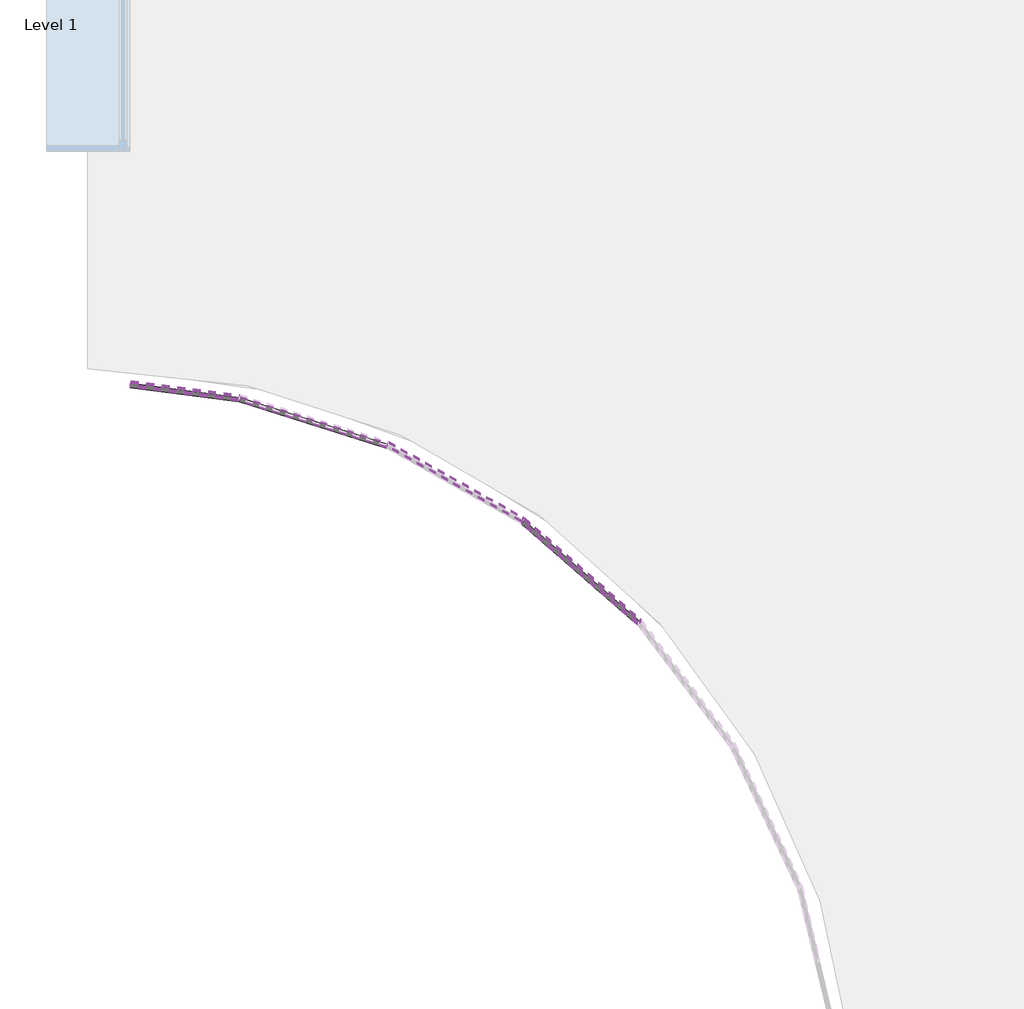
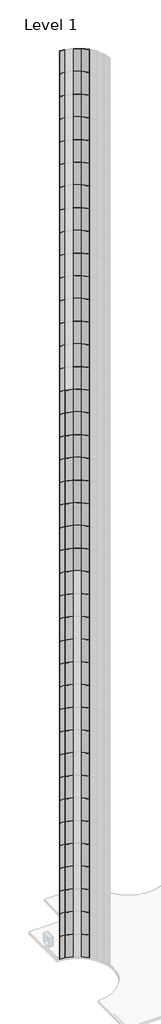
# One storey, part 4 of 19: 128 plates.
"""IFC4 building model written with IfcOpenShell, lengths in millimetres."""

from ifc_helpers import new_model, si_unit, origin, place, context, project, spatial, transform, mapped, element, save
from components import system_panel_glazed_d77d1ebf, system_panel_glazed_769dbdec

model = new_model("IFC4")

# Units and contexts
model_context = context("Model", 3, world=origin())
ifc_project = project(units=[si_unit("LENGTHUNIT", "METRE", prefix="MILLI")], contexts=[model_context])

# Site, building, storey
site = spatial("IfcSite", under=ifc_project)
building = spatial("IfcBuilding", under=site)
storey = spatial("IfcBuildingStorey", under=building, Name="Level 1", Elevation=0.0)

# Plates
placement = place(None, origin())
system_panel_glazed_shape = system_panel_glazed_d77d1ebf(model_context)
element("IfcPlate", 1, ObjectType="System Panel : Glazed", at=placement, inside=storey, context=model_context, shape_type="MappedRepresentation", body=[
    mapped(system_panel_glazed_shape, transform((-8814.9434469, -2853.0493239, 0.0), x_axis=(-0.7538025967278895, 0.657100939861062, 0.0), y_axis=(-0.657100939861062, -0.7538025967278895, 0.0), z_axis=(0.0, 0.0, 1.0))),
])
element("IfcPlate", 2, ObjectType="System Panel : Glazed", at=placement, inside=storey, context=model_context, shape_type="MappedRepresentation", body=[
    mapped(system_panel_glazed_shape, transform((-10393.2415603, -1968.0681493, 0.0), x_axis=(-0.9538156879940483, 0.30039246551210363, 0.0), y_axis=(-0.30039246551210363, -0.9538156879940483, 0.0), z_axis=(0.0, 0.0, 1.0))),
])
element("IfcPlate", 3, ObjectType="System Panel : Glazed", at=placement, inside=storey, context=model_context, shape_type="MappedRepresentation", body=[
    mapped(system_panel_glazed_shape, transform((-8814.9434469, -2853.0493239, 3048.0), x_axis=(-0.7538025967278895, 0.657100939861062, 0.0), y_axis=(-0.657100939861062, -0.7538025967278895, 0.0), z_axis=(0.0, 0.0, 1.0))),
])
element("IfcPlate", 4, ObjectType="System Panel : Glazed", at=placement, inside=storey, context=model_context, shape_type="MappedRepresentation", body=[
    mapped(system_panel_glazed_shape, transform((-10393.2415603, -1968.0681493, 3048.0), x_axis=(-0.9538156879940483, 0.30039246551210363, 0.0), y_axis=(-0.30039246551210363, -0.9538156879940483, 0.0), z_axis=(0.0, 0.0, 1.0))),
])
element("IfcPlate", 5, ObjectType="System Panel : Glazed", at=placement, inside=storey, context=model_context, shape_type="MappedRepresentation", body=[
    mapped(system_panel_glazed_shape, transform((-8814.9434469, -2853.0493239, 6096.0), x_axis=(-0.7538025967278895, 0.657100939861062, 0.0), y_axis=(-0.657100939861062, -0.7538025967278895, 0.0), z_axis=(0.0, 0.0, 1.0))),
])
element("IfcPlate", 6, ObjectType="System Panel : Glazed", at=placement, inside=storey, context=model_context, shape_type="MappedRepresentation", body=[
    mapped(system_panel_glazed_shape, transform((-10393.2415603, -1968.0681493, 6096.0), x_axis=(-0.9538156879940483, 0.30039246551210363, 0.0), y_axis=(-0.30039246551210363, -0.9538156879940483, 0.0), z_axis=(0.0, 0.0, 1.0))),
])
element("IfcPlate", 7, ObjectType="System Panel : Glazed", at=placement, inside=storey, context=model_context, shape_type="MappedRepresentation", body=[
    mapped(system_panel_glazed_shape, transform((-8814.9434469, -2853.0493239, 9144.0), x_axis=(-0.7538025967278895, 0.657100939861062, 0.0), y_axis=(-0.657100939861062, -0.7538025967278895, 0.0), z_axis=(0.0, 0.0, 1.0))),
])
element("IfcPlate", 8, ObjectType="System Panel : Glazed", at=placement, inside=storey, context=model_context, shape_type="MappedRepresentation", body=[
    mapped(system_panel_glazed_shape, transform((-10393.2415603, -1968.0681493, 9144.0), x_axis=(-0.9538156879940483, 0.30039246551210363, 0.0), y_axis=(-0.30039246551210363, -0.9538156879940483, 0.0), z_axis=(0.0, 0.0, 1.0))),
])
element("IfcPlate", 9, ObjectType="System Panel : Glazed", at=placement, inside=storey, context=model_context, shape_type="MappedRepresentation", body=[
    mapped(system_panel_glazed_shape, transform((-8814.9434469, -2853.0493239, 12192.0), x_axis=(-0.7538025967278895, 0.657100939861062, 0.0), y_axis=(-0.657100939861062, -0.7538025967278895, 0.0), z_axis=(0.0, 0.0, 1.0))),
])
element("IfcPlate", 10, ObjectType="System Panel : Glazed", at=placement, inside=storey, context=model_context, shape_type="MappedRepresentation", body=[
    mapped(system_panel_glazed_shape, transform((-10393.2415603, -1968.0681493, 12192.0), x_axis=(-0.9538156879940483, 0.30039246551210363, 0.0), y_axis=(-0.30039246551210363, -0.9538156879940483, 0.0), z_axis=(0.0, 0.0, 1.0))),
])
element("IfcPlate", 11, ObjectType="System Panel : Glazed", at=placement, inside=storey, context=model_context, shape_type="MappedRepresentation", body=[
    mapped(system_panel_glazed_shape, transform((-8814.9434469, -2853.0493239, 15240.0), x_axis=(-0.7538025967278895, 0.657100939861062, 0.0), y_axis=(-0.657100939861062, -0.7538025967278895, 0.0), z_axis=(0.0, 0.0, 1.0))),
])
element("IfcPlate", 12, ObjectType="System Panel : Glazed", at=placement, inside=storey, context=model_context, shape_type="MappedRepresentation", body=[
    mapped(system_panel_glazed_shape, transform((-10393.2415603, -1968.0681493, 15240.0), x_axis=(-0.9538156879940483, 0.30039246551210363, 0.0), y_axis=(-0.30039246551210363, -0.9538156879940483, 0.0), z_axis=(0.0, 0.0, 1.0))),
])
element("IfcPlate", 13, ObjectType="System Panel : Glazed", at=placement, inside=storey, context=model_context, shape_type="MappedRepresentation", body=[
    mapped(system_panel_glazed_shape, transform((-8814.9434469, -2853.0493239, 18288.0), x_axis=(-0.7538025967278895, 0.657100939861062, 0.0), y_axis=(-0.657100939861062, -0.7538025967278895, 0.0), z_axis=(0.0, 0.0, 1.0))),
])
element("IfcPlate", 14, ObjectType="System Panel : Glazed", at=placement, inside=storey, context=model_context, shape_type="MappedRepresentation", body=[
    mapped(system_panel_glazed_shape, transform((-10393.2415603, -1968.0681493, 18288.0), x_axis=(-0.9538156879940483, 0.30039246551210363, 0.0), y_axis=(-0.30039246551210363, -0.9538156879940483, 0.0), z_axis=(0.0, 0.0, 1.0))),
])
element("IfcPlate", 15, ObjectType="System Panel : Glazed", at=placement, inside=storey, context=model_context, shape_type="MappedRepresentation", body=[
    mapped(system_panel_glazed_shape, transform((-8814.9434469, -2853.0493239, 21336.0), x_axis=(-0.7538025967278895, 0.657100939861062, 0.0), y_axis=(-0.657100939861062, -0.7538025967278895, 0.0), z_axis=(0.0, 0.0, 1.0))),
])
element("IfcPlate", 16, ObjectType="System Panel : Glazed", at=placement, inside=storey, context=model_context, shape_type="MappedRepresentation", body=[
    mapped(system_panel_glazed_shape, transform((-10393.2415603, -1968.0681493, 21336.0), x_axis=(-0.9538156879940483, 0.30039246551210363, 0.0), y_axis=(-0.30039246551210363, -0.9538156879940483, 0.0), z_axis=(0.0, 0.0, 1.0))),
])
element("IfcPlate", 17, ObjectType="System Panel : Glazed", at=placement, inside=storey, context=model_context, shape_type="MappedRepresentation", body=[
    mapped(system_panel_glazed_shape, transform((-8814.9434469, -2853.0493239, 24384.0), x_axis=(-0.7538025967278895, 0.657100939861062, 0.0), y_axis=(-0.657100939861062, -0.7538025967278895, 0.0), z_axis=(0.0, 0.0, 1.0))),
])
element("IfcPlate", 18, ObjectType="System Panel : Glazed", at=placement, inside=storey, context=model_context, shape_type="MappedRepresentation", body=[
    mapped(system_panel_glazed_shape, transform((-10393.2415603, -1968.0681493, 24384.0), x_axis=(-0.9538156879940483, 0.30039246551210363, 0.0), y_axis=(-0.30039246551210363, -0.9538156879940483, 0.0), z_axis=(0.0, 0.0, 1.0))),
])
element("IfcPlate", 19, ObjectType="System Panel : Glazed", at=placement, inside=storey, context=model_context, shape_type="MappedRepresentation", body=[
    mapped(system_panel_glazed_shape, transform((-8814.9434469, -2853.0493239, 27432.0), x_axis=(-0.7538025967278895, 0.657100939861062, 0.0), y_axis=(-0.657100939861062, -0.7538025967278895, 0.0), z_axis=(0.0, 0.0, 1.0))),
])
element("IfcPlate", 20, ObjectType="System Panel : Glazed", at=placement, inside=storey, context=model_context, shape_type="MappedRepresentation", body=[
    mapped(system_panel_glazed_shape, transform((-10393.2415603, -1968.0681493, 27432.0), x_axis=(-0.9538156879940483, 0.30039246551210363, 0.0), y_axis=(-0.30039246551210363, -0.9538156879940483, 0.0), z_axis=(0.0, 0.0, 1.0))),
])
element("IfcPlate", 21, ObjectType="System Panel : Glazed", at=placement, inside=storey, context=model_context, shape_type="MappedRepresentation", body=[
    mapped(system_panel_glazed_shape, transform((-8814.9434469, -2853.0493239, 30480.0), x_axis=(-0.7538025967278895, 0.657100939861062, 0.0), y_axis=(-0.657100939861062, -0.7538025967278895, 0.0), z_axis=(0.0, 0.0, 1.0))),
])
element("IfcPlate", 22, ObjectType="System Panel : Glazed", at=placement, inside=storey, context=model_context, shape_type="MappedRepresentation", body=[
    mapped(system_panel_glazed_shape, transform((-10393.2415603, -1968.0681493, 30480.0), x_axis=(-0.9538156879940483, 0.30039246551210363, 0.0), y_axis=(-0.30039246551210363, -0.9538156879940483, 0.0), z_axis=(0.0, 0.0, 1.0))),
])
element("IfcPlate", 23, ObjectType="System Panel : Glazed", at=placement, inside=storey, context=model_context, shape_type="MappedRepresentation", body=[
    mapped(system_panel_glazed_shape, transform((-8814.9434469, -2853.0493239, 33528.0), x_axis=(-0.7538025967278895, 0.657100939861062, 0.0), y_axis=(-0.657100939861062, -0.7538025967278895, 0.0), z_axis=(0.0, 0.0, 1.0))),
])
element("IfcPlate", 24, ObjectType="System Panel : Glazed", at=placement, inside=storey, context=model_context, shape_type="MappedRepresentation", body=[
    mapped(system_panel_glazed_shape, transform((-10393.2415603, -1968.0681493, 33528.0), x_axis=(-0.9538156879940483, 0.30039246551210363, 0.0), y_axis=(-0.30039246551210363, -0.9538156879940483, 0.0), z_axis=(0.0, 0.0, 1.0))),
])
element("IfcPlate", 25, ObjectType="System Panel : Glazed", at=placement, inside=storey, context=model_context, shape_type="MappedRepresentation", body=[
    mapped(system_panel_glazed_shape, transform((-8814.9434469, -2853.0493239, 36576.0), x_axis=(-0.7538025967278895, 0.657100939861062, 0.0), y_axis=(-0.657100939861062, -0.7538025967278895, 0.0), z_axis=(0.0, 0.0, 1.0))),
])
element("IfcPlate", 26, ObjectType="System Panel : Glazed", at=placement, inside=storey, context=model_context, shape_type="MappedRepresentation", body=[
    mapped(system_panel_glazed_shape, transform((-10393.2415603, -1968.0681493, 36576.0), x_axis=(-0.9538156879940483, 0.30039246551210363, 0.0), y_axis=(-0.30039246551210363, -0.9538156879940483, 0.0), z_axis=(0.0, 0.0, 1.0))),
])
element("IfcPlate", 27, ObjectType="System Panel : Glazed", at=placement, inside=storey, context=model_context, shape_type="MappedRepresentation", body=[
    mapped(system_panel_glazed_shape, transform((-8814.9434469, -2853.0493239, 39624.0), x_axis=(-0.7538025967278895, 0.657100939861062, 0.0), y_axis=(-0.657100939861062, -0.7538025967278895, 0.0), z_axis=(0.0, 0.0, 1.0))),
])
element("IfcPlate", 28, ObjectType="System Panel : Glazed", at=placement, inside=storey, context=model_context, shape_type="MappedRepresentation", body=[
    mapped(system_panel_glazed_shape, transform((-10393.2415603, -1968.0681493, 39624.0), x_axis=(-0.9538156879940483, 0.30039246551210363, 0.0), y_axis=(-0.30039246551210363, -0.9538156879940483, 0.0), z_axis=(0.0, 0.0, 1.0))),
])
element("IfcPlate", 29, ObjectType="System Panel : Glazed", at=placement, inside=storey, context=model_context, shape_type="MappedRepresentation", body=[
    mapped(system_panel_glazed_shape, transform((-8814.9434469, -2853.0493239, 42672.0), x_axis=(-0.7538025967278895, 0.657100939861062, 0.0), y_axis=(-0.657100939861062, -0.7538025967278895, 0.0), z_axis=(0.0, 0.0, 1.0))),
])
element("IfcPlate", 30, ObjectType="System Panel : Glazed", at=placement, inside=storey, context=model_context, shape_type="MappedRepresentation", body=[
    mapped(system_panel_glazed_shape, transform((-10393.2415603, -1968.0681493, 42672.0), x_axis=(-0.9538156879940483, 0.30039246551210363, 0.0), y_axis=(-0.30039246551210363, -0.9538156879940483, 0.0), z_axis=(0.0, 0.0, 1.0))),
])
element("IfcPlate", 31, ObjectType="System Panel : Glazed", at=placement, inside=storey, context=model_context, shape_type="MappedRepresentation", body=[
    mapped(system_panel_glazed_shape, transform((-8814.9434469, -2853.0493239, 45720.0), x_axis=(-0.7538025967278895, 0.657100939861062, 0.0), y_axis=(-0.657100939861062, -0.7538025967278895, 0.0), z_axis=(0.0, 0.0, 1.0))),
])
element("IfcPlate", 32, ObjectType="System Panel : Glazed", at=placement, inside=storey, context=model_context, shape_type="MappedRepresentation", body=[
    mapped(system_panel_glazed_shape, transform((-10393.2415603, -1968.0681493, 45720.0), x_axis=(-0.9538156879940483, 0.30039246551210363, 0.0), y_axis=(-0.30039246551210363, -0.9538156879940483, 0.0), z_axis=(0.0, 0.0, 1.0))),
])
element("IfcPlate", 33, ObjectType="System Panel : Glazed", at=placement, inside=storey, context=model_context, shape_type="MappedRepresentation", body=[
    mapped(system_panel_glazed_shape, transform((-8814.9434469, -2853.0493239, 48768.0), x_axis=(-0.7538025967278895, 0.657100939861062, 0.0), y_axis=(-0.657100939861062, -0.7538025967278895, 0.0), z_axis=(0.0, 0.0, 1.0))),
])
element("IfcPlate", 34, ObjectType="System Panel : Glazed", at=placement, inside=storey, context=model_context, shape_type="MappedRepresentation", body=[
    mapped(system_panel_glazed_shape, transform((-10393.2415603, -1968.0681493, 48768.0), x_axis=(-0.9538156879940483, 0.30039246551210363, 0.0), y_axis=(-0.30039246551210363, -0.9538156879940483, 0.0), z_axis=(0.0, 0.0, 1.0))),
])
element("IfcPlate", 35, ObjectType="System Panel : Glazed", at=placement, inside=storey, context=model_context, shape_type="MappedRepresentation", body=[
    mapped(system_panel_glazed_shape, transform((-8814.9434469, -2853.0493239, 51816.0), x_axis=(-0.7538025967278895, 0.657100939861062, 0.0), y_axis=(-0.657100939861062, -0.7538025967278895, 0.0), z_axis=(0.0, 0.0, 1.0))),
])
element("IfcPlate", 36, ObjectType="System Panel : Glazed", at=placement, inside=storey, context=model_context, shape_type="MappedRepresentation", body=[
    mapped(system_panel_glazed_shape, transform((-9558.369511, -2329.0151794, 51816.0), x_axis=(-0.8722386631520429, 0.4890804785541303, 0.0), y_axis=(-0.4890804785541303, -0.8722386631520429, 0.0), z_axis=(0.0, 0.0, 1.0))),
])
element("IfcPlate", 37, ObjectType="System Panel : Glazed", at=placement, inside=storey, context=model_context, shape_type="MappedRepresentation", body=[
    mapped(system_panel_glazed_shape, transform((-10393.2415603, -1968.0681493, 51816.0), x_axis=(-0.9538156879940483, 0.30039246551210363, 0.0), y_axis=(-0.30039246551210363, -0.9538156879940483, 0.0), z_axis=(0.0, 0.0, 1.0))),
])
element("IfcPlate", 38, ObjectType="System Panel : Glazed", at=placement, inside=storey, context=model_context, shape_type="MappedRepresentation", body=[
    mapped(system_panel_glazed_shape, transform((-8814.9434469, -2853.0493239, 54864.0), x_axis=(-0.7538025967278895, 0.657100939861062, 0.0), y_axis=(-0.657100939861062, -0.7538025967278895, 0.0), z_axis=(0.0, 0.0, 1.0))),
])
element("IfcPlate", 39, ObjectType="System Panel : Glazed", at=placement, inside=storey, context=model_context, shape_type="MappedRepresentation", body=[
    mapped(system_panel_glazed_shape, transform((-9558.369511, -2329.0151794, 54864.0), x_axis=(-0.8722386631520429, 0.4890804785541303, 0.0), y_axis=(-0.4890804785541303, -0.8722386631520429, 0.0), z_axis=(0.0, 0.0, 1.0))),
])
element("IfcPlate", 40, ObjectType="System Panel : Glazed", at=placement, inside=storey, context=model_context, shape_type="MappedRepresentation", body=[
    mapped(system_panel_glazed_shape, transform((-10393.2415603, -1968.0681493, 54864.0), x_axis=(-0.9538156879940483, 0.30039246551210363, 0.0), y_axis=(-0.30039246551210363, -0.9538156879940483, 0.0), z_axis=(0.0, 0.0, 1.0))),
])
element("IfcPlate", 41, ObjectType="System Panel : Glazed", at=placement, inside=storey, context=model_context, shape_type="MappedRepresentation", body=[
    mapped(system_panel_glazed_shape, transform((-8814.9434469, -2853.0493239, 57912.0), x_axis=(-0.7538025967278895, 0.657100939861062, 0.0), y_axis=(-0.657100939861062, -0.7538025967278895, 0.0), z_axis=(0.0, 0.0, 1.0))),
])
element("IfcPlate", 42, ObjectType="System Panel : Glazed", at=placement, inside=storey, context=model_context, shape_type="MappedRepresentation", body=[
    mapped(system_panel_glazed_shape, transform((-9558.369511, -2329.0151794, 57912.0), x_axis=(-0.8722386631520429, 0.4890804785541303, 0.0), y_axis=(-0.4890804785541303, -0.8722386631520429, 0.0), z_axis=(0.0, 0.0, 1.0))),
])
element("IfcPlate", 43, ObjectType="System Panel : Glazed", at=placement, inside=storey, context=model_context, shape_type="MappedRepresentation", body=[
    mapped(system_panel_glazed_shape, transform((-10393.2415603, -1968.0681493, 57912.0), x_axis=(-0.9538156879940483, 0.30039246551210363, 0.0), y_axis=(-0.30039246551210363, -0.9538156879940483, 0.0), z_axis=(0.0, 0.0, 1.0))),
])
element("IfcPlate", 44, ObjectType="System Panel : Glazed", at=placement, inside=storey, context=model_context, shape_type="MappedRepresentation", body=[
    mapped(system_panel_glazed_shape, transform((-8814.9434469, -2853.0493239, 60960.0), x_axis=(-0.7538025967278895, 0.657100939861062, 0.0), y_axis=(-0.657100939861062, -0.7538025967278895, 0.0), z_axis=(0.0, 0.0, 1.0))),
])
element("IfcPlate", 45, ObjectType="System Panel : Glazed", at=placement, inside=storey, context=model_context, shape_type="MappedRepresentation", body=[
    mapped(system_panel_glazed_shape, transform((-9558.369511, -2329.0151794, 60960.0), x_axis=(-0.8722386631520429, 0.4890804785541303, 0.0), y_axis=(-0.4890804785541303, -0.8722386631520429, 0.0), z_axis=(0.0, 0.0, 1.0))),
])
element("IfcPlate", 46, ObjectType="System Panel : Glazed", at=placement, inside=storey, context=model_context, shape_type="MappedRepresentation", body=[
    mapped(system_panel_glazed_shape, transform((-10393.2415603, -1968.0681493, 60960.0), x_axis=(-0.9538156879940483, 0.30039246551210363, 0.0), y_axis=(-0.30039246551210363, -0.9538156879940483, 0.0), z_axis=(0.0, 0.0, 1.0))),
])
element("IfcPlate", 47, ObjectType="System Panel : Glazed", at=placement, inside=storey, context=model_context, shape_type="MappedRepresentation", body=[
    mapped(system_panel_glazed_shape, transform((-8814.9434469, -2853.0493239, 64008.0), x_axis=(-0.7538025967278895, 0.657100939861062, 0.0), y_axis=(-0.657100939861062, -0.7538025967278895, 0.0), z_axis=(0.0, 0.0, 1.0))),
])
element("IfcPlate", 48, ObjectType="System Panel : Glazed", at=placement, inside=storey, context=model_context, shape_type="MappedRepresentation", body=[
    mapped(system_panel_glazed_shape, transform((-9558.369511, -2329.0151794, 64008.0), x_axis=(-0.8722386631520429, 0.4890804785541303, 0.0), y_axis=(-0.4890804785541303, -0.8722386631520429, 0.0), z_axis=(0.0, 0.0, 1.0))),
])
element("IfcPlate", 49, ObjectType="System Panel : Glazed", at=placement, inside=storey, context=model_context, shape_type="MappedRepresentation", body=[
    mapped(system_panel_glazed_shape, transform((-10393.2415603, -1968.0681493, 64008.0), x_axis=(-0.9538156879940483, 0.30039246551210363, 0.0), y_axis=(-0.30039246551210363, -0.9538156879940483, 0.0), z_axis=(0.0, 0.0, 1.0))),
])
element("IfcPlate", 50, ObjectType="System Panel : Glazed", at=placement, inside=storey, context=model_context, shape_type="MappedRepresentation", body=[
    mapped(system_panel_glazed_shape, transform((-8814.9434469, -2853.0493239, 67056.0), x_axis=(-0.7538025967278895, 0.657100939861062, 0.0), y_axis=(-0.657100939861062, -0.7538025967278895, 0.0), z_axis=(0.0, 0.0, 1.0))),
])
element("IfcPlate", 51, ObjectType="System Panel : Glazed", at=placement, inside=storey, context=model_context, shape_type="MappedRepresentation", body=[
    mapped(system_panel_glazed_shape, transform((-9558.369511, -2329.0151794, 67056.0), x_axis=(-0.8722386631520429, 0.4890804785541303, 0.0), y_axis=(-0.4890804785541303, -0.8722386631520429, 0.0), z_axis=(0.0, 0.0, 1.0))),
])
element("IfcPlate", 52, ObjectType="System Panel : Glazed", at=placement, inside=storey, context=model_context, shape_type="MappedRepresentation", body=[
    mapped(system_panel_glazed_shape, transform((-10393.2415603, -1968.0681493, 67056.0), x_axis=(-0.9538156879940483, 0.30039246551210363, 0.0), y_axis=(-0.30039246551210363, -0.9538156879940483, 0.0), z_axis=(0.0, 0.0, 1.0))),
])
element("IfcPlate", 53, ObjectType="System Panel : Glazed", at=placement, inside=storey, context=model_context, shape_type="MappedRepresentation", body=[
    mapped(system_panel_glazed_shape, transform((-8814.9434469, -2853.0493239, 70104.0), x_axis=(-0.7538025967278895, 0.657100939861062, 0.0), y_axis=(-0.657100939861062, -0.7538025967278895, 0.0), z_axis=(0.0, 0.0, 1.0))),
])
element("IfcPlate", 54, ObjectType="System Panel : Glazed", at=placement, inside=storey, context=model_context, shape_type="MappedRepresentation", body=[
    mapped(system_panel_glazed_shape, transform((-9558.369511, -2329.0151794, 70104.0), x_axis=(-0.8722386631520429, 0.4890804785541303, 0.0), y_axis=(-0.4890804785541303, -0.8722386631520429, 0.0), z_axis=(0.0, 0.0, 1.0))),
])
element("IfcPlate", 55, ObjectType="System Panel : Glazed", at=placement, inside=storey, context=model_context, shape_type="MappedRepresentation", body=[
    mapped(system_panel_glazed_shape, transform((-10393.2415603, -1968.0681493, 70104.0), x_axis=(-0.9538156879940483, 0.30039246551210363, 0.0), y_axis=(-0.30039246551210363, -0.9538156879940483, 0.0), z_axis=(0.0, 0.0, 1.0))),
])
element("IfcPlate", 56, ObjectType="System Panel : Glazed", at=placement, inside=storey, context=model_context, shape_type="MappedRepresentation", body=[
    mapped(system_panel_glazed_shape, transform((-8814.9434469, -2853.0493239, 73152.0), x_axis=(-0.7538025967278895, 0.657100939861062, 0.0), y_axis=(-0.657100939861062, -0.7538025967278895, 0.0), z_axis=(0.0, 0.0, 1.0))),
])
element("IfcPlate", 57, ObjectType="System Panel : Glazed", at=placement, inside=storey, context=model_context, shape_type="MappedRepresentation", body=[
    mapped(system_panel_glazed_shape, transform((-9558.369511, -2329.0151794, 73152.0), x_axis=(-0.8722386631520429, 0.4890804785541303, 0.0), y_axis=(-0.4890804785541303, -0.8722386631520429, 0.0), z_axis=(0.0, 0.0, 1.0))),
])
element("IfcPlate", 58, ObjectType="System Panel : Glazed", at=placement, inside=storey, context=model_context, shape_type="MappedRepresentation", body=[
    mapped(system_panel_glazed_shape, transform((-10393.2415603, -1968.0681493, 73152.0), x_axis=(-0.9538156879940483, 0.30039246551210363, 0.0), y_axis=(-0.30039246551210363, -0.9538156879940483, 0.0), z_axis=(0.0, 0.0, 1.0))),
])
element("IfcPlate", 59, ObjectType="System Panel : Glazed", at=placement, inside=storey, context=model_context, shape_type="MappedRepresentation", body=[
    mapped(system_panel_glazed_shape, transform((-8814.9434469, -2853.0493239, 76200.0), x_axis=(-0.7538025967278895, 0.657100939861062, 0.0), y_axis=(-0.657100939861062, -0.7538025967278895, 0.0), z_axis=(0.0, 0.0, 1.0))),
])
element("IfcPlate", 60, ObjectType="System Panel : Glazed", at=placement, inside=storey, context=model_context, shape_type="MappedRepresentation", body=[
    mapped(system_panel_glazed_shape, transform((-9558.369511, -2329.0151794, 76200.0), x_axis=(-0.8722386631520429, 0.4890804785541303, 0.0), y_axis=(-0.4890804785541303, -0.8722386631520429, 0.0), z_axis=(0.0, 0.0, 1.0))),
])
element("IfcPlate", 61, ObjectType="System Panel : Glazed", at=placement, inside=storey, context=model_context, shape_type="MappedRepresentation", body=[
    mapped(system_panel_glazed_shape, transform((-8814.9434469, -2853.0493239, 79248.0), x_axis=(-0.7538025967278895, 0.657100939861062, 0.0), y_axis=(-0.657100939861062, -0.7538025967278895, 0.0), z_axis=(0.0, 0.0, 1.0))),
])
element("IfcPlate", 62, ObjectType="System Panel : Glazed", at=placement, inside=storey, context=model_context, shape_type="MappedRepresentation", body=[
    mapped(system_panel_glazed_shape, transform((-9558.369511, -2329.0151794, 79248.0), x_axis=(-0.8722386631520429, 0.4890804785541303, 0.0), y_axis=(-0.4890804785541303, -0.8722386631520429, 0.0), z_axis=(0.0, 0.0, 1.0))),
])
element("IfcPlate", 63, ObjectType="System Panel : Glazed", at=placement, inside=storey, context=model_context, shape_type="MappedRepresentation", body=[
    mapped(system_panel_glazed_shape, transform((-8814.9434469, -2853.0493239, 82296.0), x_axis=(-0.7538025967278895, 0.657100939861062, 0.0), y_axis=(-0.657100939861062, -0.7538025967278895, 0.0), z_axis=(0.0, 0.0, 1.0))),
])
element("IfcPlate", 64, ObjectType="System Panel : Glazed", at=placement, inside=storey, context=model_context, shape_type="MappedRepresentation", body=[
    mapped(system_panel_glazed_shape, transform((-9558.369511, -2329.0151794, 82296.0), x_axis=(-0.8722386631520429, 0.4890804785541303, 0.0), y_axis=(-0.4890804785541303, -0.8722386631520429, 0.0), z_axis=(0.0, 0.0, 1.0))),
])
element("IfcPlate", 65, ObjectType="System Panel : Glazed", at=placement, inside=storey, context=model_context, shape_type="MappedRepresentation", body=[
    mapped(system_panel_glazed_shape, transform((-8814.9434469, -2853.0493239, 85344.0), x_axis=(-0.7538025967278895, 0.657100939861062, 0.0), y_axis=(-0.657100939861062, -0.7538025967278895, 0.0), z_axis=(0.0, 0.0, 1.0))),
])
element("IfcPlate", 66, ObjectType="System Panel : Glazed", at=placement, inside=storey, context=model_context, shape_type="MappedRepresentation", body=[
    mapped(system_panel_glazed_shape, transform((-9558.369511, -2329.0151794, 85344.0), x_axis=(-0.8722386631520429, 0.4890804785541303, 0.0), y_axis=(-0.4890804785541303, -0.8722386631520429, 0.0), z_axis=(0.0, 0.0, 1.0))),
])
element("IfcPlate", 67, ObjectType="System Panel : Glazed", at=placement, inside=storey, context=model_context, shape_type="MappedRepresentation", body=[
    mapped(system_panel_glazed_shape, transform((-8814.9434469, -2853.0493239, 88392.0), x_axis=(-0.7538025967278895, 0.657100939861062, 0.0), y_axis=(-0.657100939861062, -0.7538025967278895, 0.0), z_axis=(0.0, 0.0, 1.0))),
])
element("IfcPlate", 68, ObjectType="System Panel : Glazed", at=placement, inside=storey, context=model_context, shape_type="MappedRepresentation", body=[
    mapped(system_panel_glazed_shape, transform((-9558.369511, -2329.0151794, 88392.0), x_axis=(-0.8722386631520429, 0.4890804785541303, 0.0), y_axis=(-0.4890804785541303, -0.8722386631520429, 0.0), z_axis=(0.0, 0.0, 1.0))),
])
element("IfcPlate", 69, ObjectType="System Panel : Glazed", at=placement, inside=storey, context=model_context, shape_type="MappedRepresentation", body=[
    mapped(system_panel_glazed_shape, transform((-8814.9434469, -2853.0493239, 91440.0), x_axis=(-0.7538025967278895, 0.657100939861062, 0.0), y_axis=(-0.657100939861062, -0.7538025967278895, 0.0), z_axis=(0.0, 0.0, 1.0))),
])
element("IfcPlate", 70, ObjectType="System Panel : Glazed", at=placement, inside=storey, context=model_context, shape_type="MappedRepresentation", body=[
    mapped(system_panel_glazed_shape, transform((-9558.369511, -2329.0151794, 91440.0), x_axis=(-0.8722386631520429, 0.4890804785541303, 0.0), y_axis=(-0.4890804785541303, -0.8722386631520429, 0.0), z_axis=(0.0, 0.0, 1.0))),
])
element("IfcPlate", 71, ObjectType="System Panel : Glazed", at=placement, inside=storey, context=model_context, shape_type="MappedRepresentation", body=[
    mapped(system_panel_glazed_shape, transform((-8814.9434469, -2853.0493239, 94488.0), x_axis=(-0.7538025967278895, 0.657100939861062, 0.0), y_axis=(-0.657100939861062, -0.7538025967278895, 0.0), z_axis=(0.0, 0.0, 1.0))),
])
element("IfcPlate", 72, ObjectType="System Panel : Glazed", at=placement, inside=storey, context=model_context, shape_type="MappedRepresentation", body=[
    mapped(system_panel_glazed_shape, transform((-9558.369511, -2329.0151794, 94488.0), x_axis=(-0.8722386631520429, 0.4890804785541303, 0.0), y_axis=(-0.4890804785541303, -0.8722386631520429, 0.0), z_axis=(0.0, 0.0, 1.0))),
])
element("IfcPlate", 73, ObjectType="System Panel : Glazed", at=placement, inside=storey, context=model_context, shape_type="MappedRepresentation", body=[
    mapped(system_panel_glazed_shape, transform((-8814.9434469, -2853.0493239, 97536.0), x_axis=(-0.7538025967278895, 0.657100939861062, 0.0), y_axis=(-0.657100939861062, -0.7538025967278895, 0.0), z_axis=(0.0, 0.0, 1.0))),
])
element("IfcPlate", 74, ObjectType="System Panel : Glazed", at=placement, inside=storey, context=model_context, shape_type="MappedRepresentation", body=[
    mapped(system_panel_glazed_shape, transform((-9558.369511, -2329.0151794, 97536.0), x_axis=(-0.8722386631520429, 0.4890804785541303, 0.0), y_axis=(-0.4890804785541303, -0.8722386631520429, 0.0), z_axis=(0.0, 0.0, 1.0))),
])
element("IfcPlate", 75, ObjectType="System Panel : Glazed", at=placement, inside=storey, context=model_context, shape_type="MappedRepresentation", body=[
    mapped(system_panel_glazed_shape, transform((-8814.9434469, -2853.0493239, 100584.0), x_axis=(-0.7538025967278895, 0.657100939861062, 0.0), y_axis=(-0.657100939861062, -0.7538025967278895, 0.0), z_axis=(0.0, 0.0, 1.0))),
])
element("IfcPlate", 76, ObjectType="System Panel : Glazed", at=placement, inside=storey, context=model_context, shape_type="MappedRepresentation", body=[
    mapped(system_panel_glazed_shape, transform((-9558.369511, -2329.0151794, 100584.0), x_axis=(-0.8722386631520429, 0.4890804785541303, 0.0), y_axis=(-0.4890804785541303, -0.8722386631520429, 0.0), z_axis=(0.0, 0.0, 1.0))),
])
element("IfcPlate", 77, ObjectType="System Panel : Glazed", at=placement, inside=storey, context=model_context, shape_type="MappedRepresentation", body=[
    mapped(system_panel_glazed_shape, transform((-8814.9434469, -2853.0493239, 103632.0), x_axis=(-0.7538025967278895, 0.657100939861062, 0.0), y_axis=(-0.657100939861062, -0.7538025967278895, 0.0), z_axis=(0.0, 0.0, 1.0))),
])
element("IfcPlate", 78, ObjectType="System Panel : Glazed", at=placement, inside=storey, context=model_context, shape_type="MappedRepresentation", body=[
    mapped(system_panel_glazed_shape, transform((-9558.369511, -2329.0151794, 103632.0), x_axis=(-0.8722386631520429, 0.4890804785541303, 0.0), y_axis=(-0.4890804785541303, -0.8722386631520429, 0.0), z_axis=(0.0, 0.0, 1.0))),
])
element("IfcPlate", 79, ObjectType="System Panel : Glazed", at=placement, inside=storey, context=model_context, shape_type="MappedRepresentation", body=[
    mapped(system_panel_glazed_shape, transform((-8814.9434469, -2853.0493239, 106680.0), x_axis=(-0.7538025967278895, 0.657100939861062, 0.0), y_axis=(-0.657100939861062, -0.7538025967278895, 0.0), z_axis=(0.0, 0.0, 1.0))),
])
element("IfcPlate", 80, ObjectType="System Panel : Glazed", at=placement, inside=storey, context=model_context, shape_type="MappedRepresentation", body=[
    mapped(system_panel_glazed_shape, transform((-9558.369511, -2329.0151794, 106680.0), x_axis=(-0.8722386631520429, 0.4890804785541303, 0.0), y_axis=(-0.4890804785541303, -0.8722386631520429, 0.0), z_axis=(0.0, 0.0, 1.0))),
])
element("IfcPlate", 81, ObjectType="System Panel : Glazed", at=placement, inside=storey, context=model_context, shape_type="MappedRepresentation", body=[
    mapped(system_panel_glazed_shape, transform((-8814.9434469, -2853.0493239, 109728.0), x_axis=(-0.7538025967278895, 0.657100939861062, 0.0), y_axis=(-0.657100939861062, -0.7538025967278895, 0.0), z_axis=(0.0, 0.0, 1.0))),
])
element("IfcPlate", 82, ObjectType="System Panel : Glazed", at=placement, inside=storey, context=model_context, shape_type="MappedRepresentation", body=[
    mapped(system_panel_glazed_shape, transform((-9558.369511, -2329.0151794, 109728.0), x_axis=(-0.8722386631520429, 0.4890804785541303, 0.0), y_axis=(-0.4890804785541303, -0.8722386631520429, 0.0), z_axis=(0.0, 0.0, 1.0))),
])
element("IfcPlate", 83, ObjectType="System Panel : Glazed", at=placement, inside=storey, context=model_context, shape_type="MappedRepresentation", body=[
    mapped(system_panel_glazed_shape, transform((-8814.9434469, -2853.0493239, 112776.0), x_axis=(-0.7538025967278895, 0.657100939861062, 0.0), y_axis=(-0.657100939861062, -0.7538025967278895, 0.0), z_axis=(0.0, 0.0, 1.0))),
])
element("IfcPlate", 84, ObjectType="System Panel : Glazed", at=placement, inside=storey, context=model_context, shape_type="MappedRepresentation", body=[
    mapped(system_panel_glazed_shape, transform((-9558.369511, -2329.0151794, 112776.0), x_axis=(-0.8722386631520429, 0.4890804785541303, 0.0), y_axis=(-0.4890804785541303, -0.8722386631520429, 0.0), z_axis=(0.0, 0.0, 1.0))),
])
element("IfcPlate", 85, ObjectType="System Panel : Glazed", at=placement, inside=storey, context=model_context, shape_type="MappedRepresentation", body=[
    mapped(system_panel_glazed_shape, transform((-8814.9434469, -2853.0493239, 115824.0), x_axis=(-0.7538025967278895, 0.657100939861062, 0.0), y_axis=(-0.657100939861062, -0.7538025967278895, 0.0), z_axis=(0.0, 0.0, 1.0))),
])
element("IfcPlate", 86, ObjectType="System Panel : Glazed", at=placement, inside=storey, context=model_context, shape_type="MappedRepresentation", body=[
    mapped(system_panel_glazed_shape, transform((-9558.369511, -2329.0151794, 115824.0), x_axis=(-0.8722386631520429, 0.4890804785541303, 0.0), y_axis=(-0.4890804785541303, -0.8722386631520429, 0.0), z_axis=(0.0, 0.0, 1.0))),
])
element("IfcPlate", 87, ObjectType="System Panel : Glazed", at=placement, inside=storey, context=model_context, shape_type="MappedRepresentation", body=[
    mapped(system_panel_glazed_shape, transform((-8814.9434469, -2853.0493239, 118872.0), x_axis=(-0.7538025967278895, 0.657100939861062, 0.0), y_axis=(-0.657100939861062, -0.7538025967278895, 0.0), z_axis=(0.0, 0.0, 1.0))),
])
element("IfcPlate", 88, ObjectType="System Panel : Glazed", at=placement, inside=storey, context=model_context, shape_type="MappedRepresentation", body=[
    mapped(system_panel_glazed_shape, transform((-9558.369511, -2329.0151794, 118872.0), x_axis=(-0.8722386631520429, 0.4890804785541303, 0.0), y_axis=(-0.4890804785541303, -0.8722386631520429, 0.0), z_axis=(0.0, 0.0, 1.0))),
])
system_panel_glazed_2_shape = system_panel_glazed_769dbdec(model_context)
element("IfcPlate", 89, ObjectType="System Panel : Glazed", at=placement, inside=storey, context=model_context, shape_type="MappedRepresentation", body=[
    mapped(system_panel_glazed_2_shape, transform((-11150.4320192, -1788.9838434, 0.0), x_axis=(-0.9916551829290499, 0.1289185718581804, 0.0), y_axis=(-0.1289185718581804, -0.9916551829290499, 0.0), z_axis=(0.0, 0.0, 1.0))),
])
element("IfcPlate", 90, ObjectType="System Panel : Glazed", at=placement, inside=storey, context=model_context, shape_type="MappedRepresentation", body=[
    mapped(system_panel_glazed_2_shape, transform((-11150.4320192, -1788.9838434, 3048.0), x_axis=(-0.9916551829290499, 0.1289185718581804, 0.0), y_axis=(-0.1289185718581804, -0.9916551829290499, 0.0), z_axis=(0.0, 0.0, 1.0))),
])
element("IfcPlate", 91, ObjectType="System Panel : Glazed", at=placement, inside=storey, context=model_context, shape_type="MappedRepresentation", body=[
    mapped(system_panel_glazed_2_shape, transform((-11150.4320192, -1788.9838434, 6096.0), x_axis=(-0.9916551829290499, 0.1289185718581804, 0.0), y_axis=(-0.1289185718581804, -0.9916551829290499, 0.0), z_axis=(0.0, 0.0, 1.0))),
])
element("IfcPlate", 92, ObjectType="System Panel : Glazed", at=placement, inside=storey, context=model_context, shape_type="MappedRepresentation", body=[
    mapped(system_panel_glazed_2_shape, transform((-11150.4320192, -1788.9838434, 9144.0), x_axis=(-0.9916551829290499, 0.1289185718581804, 0.0), y_axis=(-0.1289185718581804, -0.9916551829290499, 0.0), z_axis=(0.0, 0.0, 1.0))),
])
element("IfcPlate", 93, ObjectType="System Panel : Glazed", at=placement, inside=storey, context=model_context, shape_type="MappedRepresentation", body=[
    mapped(system_panel_glazed_2_shape, transform((-11150.4320192, -1788.9838434, 12192.0), x_axis=(-0.9916551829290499, 0.1289185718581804, 0.0), y_axis=(-0.1289185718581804, -0.9916551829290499, 0.0), z_axis=(0.0, 0.0, 1.0))),
])
element("IfcPlate", 94, ObjectType="System Panel : Glazed", at=placement, inside=storey, context=model_context, shape_type="MappedRepresentation", body=[
    mapped(system_panel_glazed_2_shape, transform((-11150.4320192, -1788.9838434, 15240.0), x_axis=(-0.9916551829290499, 0.1289185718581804, 0.0), y_axis=(-0.1289185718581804, -0.9916551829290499, 0.0), z_axis=(0.0, 0.0, 1.0))),
])
element("IfcPlate", 95, ObjectType="System Panel : Glazed", at=placement, inside=storey, context=model_context, shape_type="MappedRepresentation", body=[
    mapped(system_panel_glazed_2_shape, transform((-11150.4320192, -1788.9838434, 18288.0), x_axis=(-0.9916551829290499, 0.12891857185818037, 0.0), y_axis=(-0.12891857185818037, -0.9916551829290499, 0.0), z_axis=(0.0, 0.0, 1.0))),
])
element("IfcPlate", 96, ObjectType="System Panel : Glazed", at=placement, inside=storey, context=model_context, shape_type="MappedRepresentation", body=[
    mapped(system_panel_glazed_2_shape, transform((-11150.4320192, -1788.9838434, 21336.0), x_axis=(-0.9916551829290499, 0.1289185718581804, 0.0), y_axis=(-0.1289185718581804, -0.9916551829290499, 0.0), z_axis=(0.0, 0.0, 1.0))),
])
element("IfcPlate", 97, ObjectType="System Panel : Glazed", at=placement, inside=storey, context=model_context, shape_type="MappedRepresentation", body=[
    mapped(system_panel_glazed_2_shape, transform((-11150.4320192, -1788.9838434, 24384.0), x_axis=(-0.9916551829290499, 0.1289185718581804, 0.0), y_axis=(-0.1289185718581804, -0.9916551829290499, 0.0), z_axis=(0.0, 0.0, 1.0))),
])
element("IfcPlate", 98, ObjectType="System Panel : Glazed", at=placement, inside=storey, context=model_context, shape_type="MappedRepresentation", body=[
    mapped(system_panel_glazed_2_shape, transform((-11150.4320192, -1788.9838434, 27432.0), x_axis=(-0.9916551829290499, 0.1289185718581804, 0.0), y_axis=(-0.1289185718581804, -0.9916551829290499, 0.0), z_axis=(0.0, 0.0, 1.0))),
])
element("IfcPlate", 99, ObjectType="System Panel : Glazed", at=placement, inside=storey, context=model_context, shape_type="MappedRepresentation", body=[
    mapped(system_panel_glazed_2_shape, transform((-11150.4320192, -1788.9838434, 30480.0), x_axis=(-0.9916551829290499, 0.1289185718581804, 0.0), y_axis=(-0.1289185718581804, -0.9916551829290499, 0.0), z_axis=(0.0, 0.0, 1.0))),
])
element("IfcPlate", 100, ObjectType="System Panel : Glazed", at=placement, inside=storey, context=model_context, shape_type="MappedRepresentation", body=[
    mapped(system_panel_glazed_2_shape, transform((-11150.4320192, -1788.9838434, 33528.0), x_axis=(-0.9916551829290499, 0.1289185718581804, 0.0), y_axis=(-0.1289185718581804, -0.9916551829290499, 0.0), z_axis=(0.0, 0.0, 1.0))),
])
element("IfcPlate", 101, ObjectType="System Panel : Glazed", at=placement, inside=storey, context=model_context, shape_type="MappedRepresentation", body=[
    mapped(system_panel_glazed_2_shape, transform((-11150.4320192, -1788.9838434, 36576.0), x_axis=(-0.9916551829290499, 0.1289185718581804, 0.0), y_axis=(-0.1289185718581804, -0.9916551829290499, 0.0), z_axis=(0.0, 0.0, 1.0))),
])
element("IfcPlate", 102, ObjectType="System Panel : Glazed", at=placement, inside=storey, context=model_context, shape_type="MappedRepresentation", body=[
    mapped(system_panel_glazed_2_shape, transform((-11150.4320192, -1788.9838434, 39624.0), x_axis=(-0.9916551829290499, 0.1289185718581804, 0.0), y_axis=(-0.1289185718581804, -0.9916551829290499, 0.0), z_axis=(0.0, 0.0, 1.0))),
])
element("IfcPlate", 103, ObjectType="System Panel : Glazed", at=placement, inside=storey, context=model_context, shape_type="MappedRepresentation", body=[
    mapped(system_panel_glazed_2_shape, transform((-11150.4320192, -1788.9838434, 42672.0), x_axis=(-0.9916551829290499, 0.1289185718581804, 0.0), y_axis=(-0.1289185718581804, -0.9916551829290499, 0.0), z_axis=(0.0, 0.0, 1.0))),
])
element("IfcPlate", 104, ObjectType="System Panel : Glazed", at=placement, inside=storey, context=model_context, shape_type="MappedRepresentation", body=[
    mapped(system_panel_glazed_2_shape, transform((-11150.4320192, -1788.9838434, 45720.0), x_axis=(-0.9916551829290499, 0.1289185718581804, 0.0), y_axis=(-0.1289185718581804, -0.9916551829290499, 0.0), z_axis=(0.0, 0.0, 1.0))),
])
element("IfcPlate", 105, ObjectType="System Panel : Glazed", at=placement, inside=storey, context=model_context, shape_type="MappedRepresentation", body=[
    mapped(system_panel_glazed_2_shape, transform((-11150.4320192, -1788.9838434, 48768.0), x_axis=(-0.9916551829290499, 0.1289185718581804, 0.0), y_axis=(-0.1289185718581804, -0.9916551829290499, 0.0), z_axis=(0.0, 0.0, 1.0))),
])
element("IfcPlate", 106, ObjectType="System Panel : Glazed", at=placement, inside=storey, context=model_context, shape_type="MappedRepresentation", body=[
    mapped(system_panel_glazed_2_shape, transform((-11150.4320192, -1788.9838434, 51816.0), x_axis=(-0.9916551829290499, 0.1289185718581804, 0.0), y_axis=(-0.1289185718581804, -0.9916551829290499, 0.0), z_axis=(0.0, 0.0, 1.0))),
])
element("IfcPlate", 107, ObjectType="System Panel : Glazed", at=placement, inside=storey, context=model_context, shape_type="MappedRepresentation", body=[
    mapped(system_panel_glazed_2_shape, transform((-11150.4320192, -1788.9838434, 54864.0), x_axis=(-0.9916551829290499, 0.1289185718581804, 0.0), y_axis=(-0.1289185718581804, -0.9916551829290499, 0.0), z_axis=(0.0, 0.0, 1.0))),
])
element("IfcPlate", 108, ObjectType="System Panel : Glazed", at=placement, inside=storey, context=model_context, shape_type="MappedRepresentation", body=[
    mapped(system_panel_glazed_2_shape, transform((-11150.4320192, -1788.9838434, 57912.0), x_axis=(-0.9916551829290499, 0.1289185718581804, 0.0), y_axis=(-0.1289185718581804, -0.9916551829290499, 0.0), z_axis=(0.0, 0.0, 1.0))),
])
element("IfcPlate", 109, ObjectType="System Panel : Glazed", at=placement, inside=storey, context=model_context, shape_type="MappedRepresentation", body=[
    mapped(system_panel_glazed_2_shape, transform((-11150.4320192, -1788.9838434, 60960.0), x_axis=(-0.9916551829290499, 0.1289185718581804, 0.0), y_axis=(-0.1289185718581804, -0.9916551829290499, 0.0), z_axis=(0.0, 0.0, 1.0))),
])
element("IfcPlate", 110, ObjectType="System Panel : Glazed", at=placement, inside=storey, context=model_context, shape_type="MappedRepresentation", body=[
    mapped(system_panel_glazed_2_shape, transform((-11150.4320192, -1788.9838434, 64008.0), x_axis=(-0.9916551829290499, 0.1289185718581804, 0.0), y_axis=(-0.1289185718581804, -0.9916551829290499, 0.0), z_axis=(0.0, 0.0, 1.0))),
])
element("IfcPlate", 111, ObjectType="System Panel : Glazed", at=placement, inside=storey, context=model_context, shape_type="MappedRepresentation", body=[
    mapped(system_panel_glazed_2_shape, transform((-11150.4320192, -1788.9838434, 67056.0), x_axis=(-0.9916551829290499, 0.1289185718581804, 0.0), y_axis=(-0.1289185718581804, -0.9916551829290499, 0.0), z_axis=(0.0, 0.0, 1.0))),
])
element("IfcPlate", 112, ObjectType="System Panel : Glazed", at=placement, inside=storey, context=model_context, shape_type="MappedRepresentation", body=[
    mapped(system_panel_glazed_2_shape, transform((-11150.4320192, -1788.9838434, 70104.0), x_axis=(-0.9916551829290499, 0.1289185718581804, 0.0), y_axis=(-0.1289185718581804, -0.9916551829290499, 0.0), z_axis=(0.0, 0.0, 1.0))),
])
element("IfcPlate", 113, ObjectType="System Panel : Glazed", at=placement, inside=storey, context=model_context, shape_type="MappedRepresentation", body=[
    mapped(system_panel_glazed_2_shape, transform((-11150.4320192, -1788.9838434, 73152.0), x_axis=(-0.9916551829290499, 0.1289185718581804, 0.0), y_axis=(-0.1289185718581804, -0.9916551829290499, 0.0), z_axis=(0.0, 0.0, 1.0))),
])
element("IfcPlate", 114, ObjectType="System Panel : Glazed", at=placement, inside=storey, context=model_context, shape_type="MappedRepresentation", body=[
    mapped(system_panel_glazed_2_shape, transform((-11150.4320192, -1788.9838434, 76200.0), x_axis=(-0.9916551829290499, 0.1289185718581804, 0.0), y_axis=(-0.1289185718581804, -0.9916551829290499, 0.0), z_axis=(0.0, 0.0, 1.0))),
])
element("IfcPlate", 115, ObjectType="System Panel : Glazed", at=placement, inside=storey, context=model_context, shape_type="MappedRepresentation", body=[
    mapped(system_panel_glazed_2_shape, transform((-11150.4320192, -1788.9838434, 79248.0), x_axis=(-0.9916551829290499, 0.1289185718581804, 0.0), y_axis=(-0.1289185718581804, -0.9916551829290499, 0.0), z_axis=(0.0, 0.0, 1.0))),
])
element("IfcPlate", 116, ObjectType="System Panel : Glazed", at=placement, inside=storey, context=model_context, shape_type="MappedRepresentation", body=[
    mapped(system_panel_glazed_2_shape, transform((-11150.4320192, -1788.9838434, 82296.0), x_axis=(-0.9916551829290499, 0.1289185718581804, 0.0), y_axis=(-0.1289185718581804, -0.9916551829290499, 0.0), z_axis=(0.0, 0.0, 1.0))),
])
element("IfcPlate", 117, ObjectType="System Panel : Glazed", at=placement, inside=storey, context=model_context, shape_type="MappedRepresentation", body=[
    mapped(system_panel_glazed_2_shape, transform((-11150.4320192, -1788.9838434, 85344.0), x_axis=(-0.9916551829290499, 0.1289185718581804, 0.0), y_axis=(-0.1289185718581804, -0.9916551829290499, 0.0), z_axis=(0.0, 0.0, 1.0))),
])
element("IfcPlate", 118, ObjectType="System Panel : Glazed", at=placement, inside=storey, context=model_context, shape_type="MappedRepresentation", body=[
    mapped(system_panel_glazed_2_shape, transform((-11150.4320192, -1788.9838434, 88392.0), x_axis=(-0.9916551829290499, 0.1289185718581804, 0.0), y_axis=(-0.1289185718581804, -0.9916551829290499, 0.0), z_axis=(0.0, 0.0, 1.0))),
])
element("IfcPlate", 119, ObjectType="System Panel : Glazed", at=placement, inside=storey, context=model_context, shape_type="MappedRepresentation", body=[
    mapped(system_panel_glazed_2_shape, transform((-11150.4320192, -1788.9838434, 91440.0), x_axis=(-0.9916551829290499, 0.1289185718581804, 0.0), y_axis=(-0.1289185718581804, -0.9916551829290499, 0.0), z_axis=(0.0, 0.0, 1.0))),
])
element("IfcPlate", 120, ObjectType="System Panel : Glazed", at=placement, inside=storey, context=model_context, shape_type="MappedRepresentation", body=[
    mapped(system_panel_glazed_2_shape, transform((-11150.4320192, -1788.9838434, 94488.0), x_axis=(-0.9916551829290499, 0.1289185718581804, 0.0), y_axis=(-0.1289185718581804, -0.9916551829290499, 0.0), z_axis=(0.0, 0.0, 1.0))),
])
element("IfcPlate", 121, ObjectType="System Panel : Glazed", at=placement, inside=storey, context=model_context, shape_type="MappedRepresentation", body=[
    mapped(system_panel_glazed_2_shape, transform((-11150.4320192, -1788.9838434, 97536.0), x_axis=(-0.9916551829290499, 0.1289185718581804, 0.0), y_axis=(-0.1289185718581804, -0.9916551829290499, 0.0), z_axis=(0.0, 0.0, 1.0))),
])
element("IfcPlate", 122, ObjectType="System Panel : Glazed", at=placement, inside=storey, context=model_context, shape_type="MappedRepresentation", body=[
    mapped(system_panel_glazed_2_shape, transform((-11150.4320192, -1788.9838434, 100584.0), x_axis=(-0.9916551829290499, 0.1289185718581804, 0.0), y_axis=(-0.1289185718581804, -0.9916551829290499, 0.0), z_axis=(0.0, 0.0, 1.0))),
])
element("IfcPlate", 123, ObjectType="System Panel : Glazed", at=placement, inside=storey, context=model_context, shape_type="MappedRepresentation", body=[
    mapped(system_panel_glazed_2_shape, transform((-11150.4320192, -1788.9838434, 103632.0), x_axis=(-0.9916551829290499, 0.1289185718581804, 0.0), y_axis=(-0.1289185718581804, -0.9916551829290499, 0.0), z_axis=(0.0, 0.0, 1.0))),
])
element("IfcPlate", 124, ObjectType="System Panel : Glazed", at=placement, inside=storey, context=model_context, shape_type="MappedRepresentation", body=[
    mapped(system_panel_glazed_2_shape, transform((-11150.4320192, -1788.9838434, 106680.0), x_axis=(-0.9916551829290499, 0.1289185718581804, 0.0), y_axis=(-0.1289185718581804, -0.9916551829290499, 0.0), z_axis=(0.0, 0.0, 1.0))),
])
element("IfcPlate", 125, ObjectType="System Panel : Glazed", at=placement, inside=storey, context=model_context, shape_type="MappedRepresentation", body=[
    mapped(system_panel_glazed_2_shape, transform((-11150.4320192, -1788.9838434, 109728.0), x_axis=(-0.9916551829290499, 0.1289185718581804, 0.0), y_axis=(-0.1289185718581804, -0.9916551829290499, 0.0), z_axis=(0.0, 0.0, 1.0))),
])
element("IfcPlate", 126, ObjectType="System Panel : Glazed", at=placement, inside=storey, context=model_context, shape_type="MappedRepresentation", body=[
    mapped(system_panel_glazed_2_shape, transform((-11150.4320192, -1788.9838434, 112776.0), x_axis=(-0.9916551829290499, 0.1289185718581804, 0.0), y_axis=(-0.1289185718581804, -0.9916551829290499, 0.0), z_axis=(0.0, 0.0, 1.0))),
])
element("IfcPlate", 127, ObjectType="System Panel : Glazed", at=placement, inside=storey, context=model_context, shape_type="MappedRepresentation", body=[
    mapped(system_panel_glazed_2_shape, transform((-11150.4320192, -1788.9838434, 115824.0), x_axis=(-0.9916551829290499, 0.1289185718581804, 0.0), y_axis=(-0.1289185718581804, -0.9916551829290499, 0.0), z_axis=(0.0, 0.0, 1.0))),
])
element("IfcPlate", 128, ObjectType="System Panel : Glazed", at=placement, inside=storey, context=model_context, shape_type="MappedRepresentation", body=[
    mapped(system_panel_glazed_2_shape, transform((-11150.4320192, -1788.9838434, 118872.0), x_axis=(-0.9916551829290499, 0.1289185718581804, 0.0), y_axis=(-0.1289185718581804, -0.9916551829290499, 0.0), z_axis=(0.0, 0.0, 1.0))),
])

save(model, "model.ifc")
